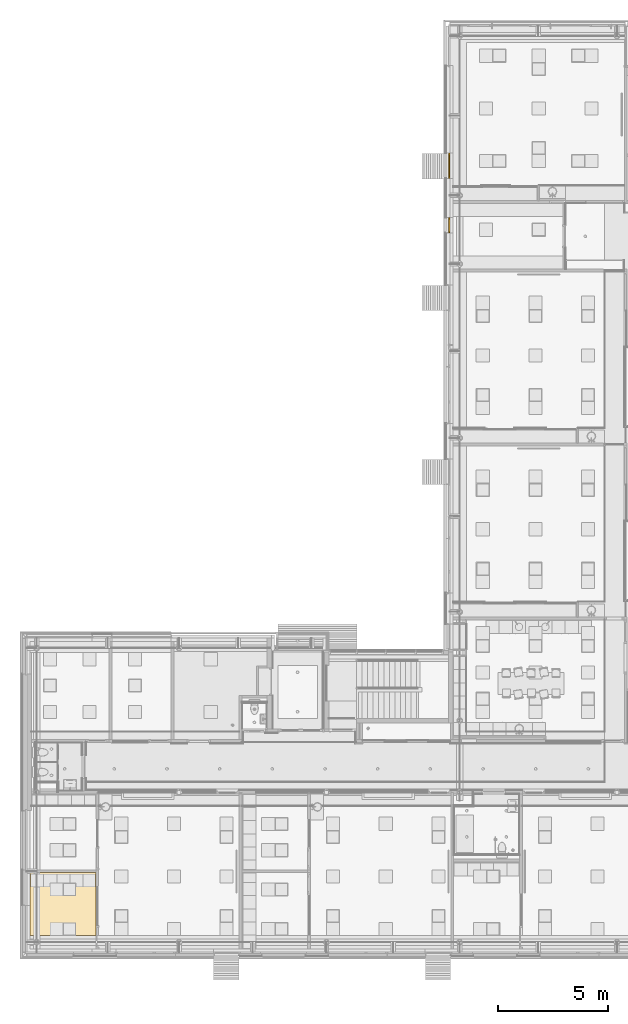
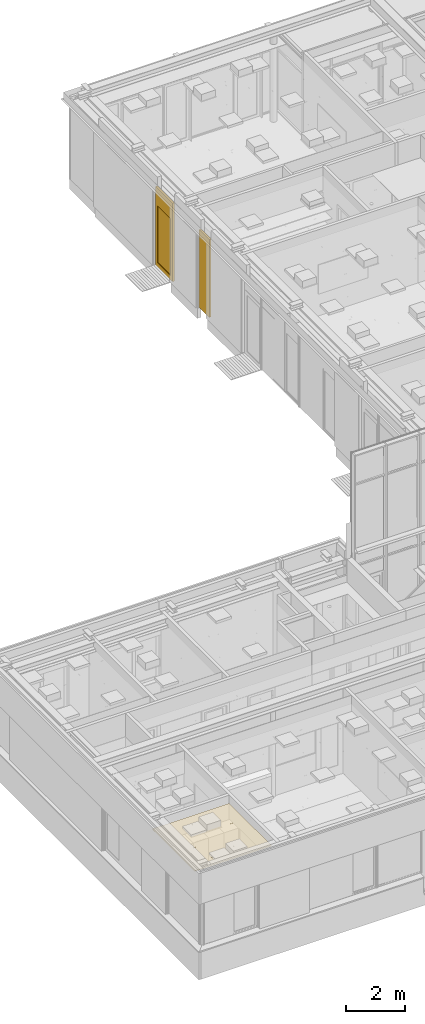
# One storey, part 156 of 347: 1 covering, 1 door, 1 window.
"""IFC2X3 building model written with IfcOpenShell, lengths in millimetres."""

from ifc_helpers import new_model, entity, si_unit, converted_unit, derived_unit, money_unit, direction, frame, origin_with_axes, place, context, subcontext, project, spatial, open_shell, faceted_brep, surface_model, type_object, element, save


model = new_model("IFC2X3")

# Units and contexts
model_context = context("Model", 3, precision=0.01, world=origin_with_axes(), true_north=direction((0.0, 1.0)))
plan_context = context("Plan", 3, precision=0.01, world=origin_with_axes(), true_north=direction((0.0, 1.0)))
body_context = subcontext(model_context, "Body", "Model", "MODEL_VIEW")
ifc_project = project(units=[si_unit("LENGTHUNIT", "METRE", prefix="MILLI"), si_unit("AREAUNIT", "SQUARE_METRE"), si_unit("VOLUMEUNIT", "CUBIC_METRE"), converted_unit("PLANEANGLEUNIT", "DEGREE", entity("IfcPlaneAngleMeasure", 0.0174532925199), si_unit("PLANEANGLEUNIT", "RADIAN"), dimensions=[0, 0, 0, 0, 0, 0, 0]), money_unit("EUR"), converted_unit("TIMEUNIT", "Year", entity("IfcTimeMeasure", 31556926.0), si_unit("TIMEUNIT", "SECOND"), dimensions=[0, 0, 1, 0, 0, 0, 0]), si_unit("MASSUNIT", "GRAM", prefix="KILO"), si_unit("THERMODYNAMICTEMPERATUREUNIT", "DEGREE_CELSIUS"), si_unit("LUMINOUSINTENSITYUNIT", "LUMEN"), si_unit("ENERGYUNIT", "JOULE", prefix="MEGA"), derived_unit("THERMALCONDUCTANCEUNIT", [(si_unit("POWERUNIT", "WATT"), 1), (si_unit("LENGTHUNIT", "METRE"), -1), (si_unit("THERMODYNAMICTEMPERATUREUNIT", "KELVIN"), -1)]), derived_unit("SPECIFICHEATCAPACITYUNIT", [(si_unit("ENERGYUNIT", "JOULE"), 1), (si_unit("MASSUNIT", "GRAM", prefix="KILO"), -1), (si_unit("THERMODYNAMICTEMPERATUREUNIT", "KELVIN"), -1)]), derived_unit("MASSDENSITYUNIT", [(si_unit("MASSUNIT", "GRAM", prefix="KILO"), 1), (si_unit("VOLUMEUNIT", "CUBIC_METRE"), -1)])], contexts=[model_context, plan_context])

# Site, building, storey
site_placement = place(None, origin_with_axes())
site = spatial("IfcSite", under=ifc_project, at=site_placement, Name="Site", CompositionType="ELEMENT")
building_placement = place(site_placement, origin_with_axes())
building = spatial("IfcBuilding", under=site, at=building_placement, Name="Naam gebouw", CompositionType="ELEMENT")
storey_placement = place(building_placement, origin_with_axes())
storey = spatial("IfcBuildingStorey", under=building, at=storey_placement, Name="begane grond", CompositionType="ELEMENT", Elevation=0.0)

# Window
window_style = type_object("IfcWindowStyle", Name="Rmeerkeuze 25", ConstructionType="NOTDEFINED", OperationType="DOUBLE_PANEL_HORIZONTAL", ParameterTakesPrecedence=False, Sizeable=False)
window_placement = place(storey_placement, frame((24275.0, 38312.5, -10.0), z_axis=(0.0, 0.0, 1.0), x_axis=(0.0, -1.0, 0.0)))
element("IfcWindow", 1, at=window_placement, inside=storey, type_object=window_style, Name="32_merk-AL", ObjectType="WINDOW", OverallHeight=3210.0, OverallWidth=700.0, context=body_context, shape_type="SurfaceModel", body=[
    faceted_brep([(646.0, -222.0, 2556.0), (646.0, -222.0, 2610.0), (646.0, -150.0, 2610.0), (646.0, -150.0, 2556.0), (646.0, -222.0, 54.0), (700.0, -222.0, 54.0), (700.0, -222.0, 3156.0), (646.0, -222.0, 3156.0), (646.0, -150.0, 3156.0), (700.0, -150.0, 3156.0), (700.0, -150.0, 54.0), (646.0, -150.0, 54.0)], [[[0, 1, 2, 3]], [[0, 4, 5, 6, 7, 1]], [[1, 7, 8, 2]], [[3, 2, 8, 9, 10, 11]], [[4, 0, 3, 11]], [[5, 4, 11, 10]], [[6, 5, 10, 9]], [[7, 6, 9, 8]]]),
    faceted_brep([(54.0, -222.0, 54.0), (0.0, -222.0, 54.0), (0.0, -150.0, 54.0), (54.0, -150.0, 54.0), (54.0, -222.0, 2556.0), (54.0, -222.0, 2610.0), (54.0, -222.0, 3156.0), (0.0, -222.0, 3156.0), (0.0, -150.0, 3156.0), (54.0, -150.0, 3156.0), (54.0, -150.0, 2610.0), (54.0, -150.0, 2556.0)], [[[0, 1, 2, 3]], [[0, 4, 5, 6, 7, 1]], [[1, 7, 8, 2]], [[3, 2, 8, 9, 10, 11]], [[4, 0, 3, 11]], [[5, 4, 11, 10]], [[6, 5, 10, 9]], [[7, 6, 9, 8]]]),
    faceted_brep([(646.0, -222.0, 2610.0), (646.0, -222.0, 2556.0), (646.0, -150.0, 2556.0), (646.0, -150.0, 2610.0), (54.0, -222.0, 2610.0), (54.0, -222.0, 2556.0), (54.0, -150.0, 2556.0), (54.0, -150.0, 2610.0)], [[[0, 1, 2, 3]], [[0, 4, 5, 1]], [[1, 5, 6, 2]], [[3, 2, 6, 7]], [[4, 0, 3, 7]], [[5, 4, 7, 6]]]),
    faceted_brep([(646.0, -222.0, 54.0), (700.0, -222.0, 54.0), (700.0, -150.0, 54.0), (646.0, -150.0, 54.0), (54.0, -222.0, 54.0), (0.0, -222.0, 54.0), (0.0, -222.0, 0.0), (700.0, -222.0, 0.0), (700.0, -150.0, 0.0), (0.0, -150.0, 0.0), (0.0, -150.0, 54.0), (54.0, -150.0, 54.0)], [[[0, 1, 2, 3]], [[0, 4, 5, 6, 7, 1]], [[1, 7, 8, 2]], [[3, 2, 8, 9, 10, 11]], [[4, 0, 3, 11]], [[5, 4, 11, 10]], [[6, 5, 10, 9]], [[7, 6, 9, 8]]]),
    faceted_brep([(54.0, -222.0, 3156.0), (0.0, -222.0, 3156.0), (0.0, -150.0, 3156.0), (54.0, -150.0, 3156.0), (646.0, -222.0, 3156.0), (700.0, -222.0, 3156.0), (700.0, -222.0, 3210.0), (0.0, -222.0, 3210.0), (0.0, -150.0, 3210.0), (700.0, -150.0, 3210.0), (700.0, -150.0, 3156.0), (646.0, -150.0, 3156.0)], [[[0, 1, 2, 3]], [[0, 4, 5, 6, 7, 1]], [[1, 7, 8, 2]], [[3, 2, 8, 9, 10, 11]], [[4, 0, 3, 11]], [[5, 4, 11, 10]], [[6, 5, 10, 9]], [[7, 6, 9, 8]]]),
    surface_model("IfcShellBasedSurfaceModel", [(646.0, -222.0, 2610.0), (646.0, -222.0, 3156.0), (54.0, -222.0, 3156.0), (54.0, -222.0, 2610.0)], [open_shell([[[0, 1, 2, 3]]])]),
    surface_model("IfcShellBasedSurfaceModel", [(646.0, -202.0, 2610.0), (54.0, -202.0, 2610.0), (54.0, -202.0, 3156.0), (646.0, -202.0, 3156.0)], [open_shell([[[0, 1, 2, 3]]])]),
    surface_model("IfcShellBasedSurfaceModel", [(646.0, -222.0, 54.0), (646.0, -222.0, 2556.0), (54.0, -222.0, 2556.0), (54.0, -222.0, 54.0)], [open_shell([[[0, 1, 2, 3]]])]),
    surface_model("IfcShellBasedSurfaceModel", [(646.0, -202.0, 54.0), (54.0, -202.0, 54.0), (54.0, -202.0, 2556.0), (646.0, -202.0, 2556.0)], [open_shell([[[0, 1, 2, 3]]])]),
])

# Door
door_style = type_object("IfcDoorStyle", Name="D1 bl 25", ConstructionType="NOTDEFINED", OperationType="SINGLE_SWING_LEFT", ParameterTakesPrecedence=False, Sizeable=False)
door_placement = place(storey_placement, frame((24275.0, 40097.0000187, -40.0), z_axis=(0.0, 0.0, 1.0), x_axis=(0.0, 1.0, 0.0)))
element("IfcDoor", 2, at=door_placement, inside=storey, type_object=door_style, Name="32_merk-AM", ObjectType="DOOR", OverallHeight=3240.0, OverallWidth=1150.0, context=body_context, shape_type="SurfaceModel", body=[
    faceted_brep([(1111.0, 160.0, 48.0), (1111.0, 222.0, 48.0), (39.0, 222.0, 48.0), (39.0, 160.0, 48.0), (54.0, 160.0, 48.0), (54.0, 150.0, 48.0), (1096.0, 150.0, 48.0), (1096.0, 160.0, 48.0), (1111.0, 160.0, 0.0), (1111.0, 222.0, 0.0), (39.0, 222.0, 0.0), (39.0, 160.0, 0.0), (54.0, 160.0, 0.0), (54.0, 150.0, 0.0), (1096.0, 150.0, 0.0), (1096.0, 160.0, 0.0)], [[[0, 1, 2, 3, 4, 5, 6, 7]], [[8, 9, 1, 0]], [[9, 10, 2, 1]], [[11, 3, 2, 10]], [[3, 11, 12, 4]], [[5, 4, 12, 13]], [[6, 5, 13, 14]], [[14, 15, 7, 6]], [[7, 15, 8, 0]], [[15, 14, 13, 12, 11, 10, 9, 8]]]),
    faceted_brep([(1096.0, 160.0, 2601.0), (1096.0, 160.0, 0.0), (1096.0, 150.0, 0.0), (1096.0, 150.0, 2586.0), (1096.0, 150.0, 2640.0), (1096.0, 222.0, 2640.0), (1096.0, 222.0, 2601.0), (1111.0, 160.0, 2601.0), (1111.0, 160.0, 0.0), (1111.0, 222.0, 0.0), (1150.0, 222.0, 0.0), (1150.0, 150.0, 0.0), (1150.0, 150.0, 3186.0), (1096.0, 150.0, 3186.0), (1096.0, 222.0, 3186.0), (1111.0, 222.0, 2601.0), (1150.0, 222.0, 3186.0)], [[[0, 1, 2, 3, 4, 5, 6]], [[0, 7, 8, 1]], [[8, 9, 10, 11, 2, 1]], [[4, 3, 2, 11, 12, 13]], [[14, 5, 4, 13]], [[15, 6, 5, 14, 16, 10, 9]], [[6, 15, 7, 0]], [[9, 8, 7, 15]], [[10, 16, 12, 11]], [[16, 14, 13, 12]]]),
    faceted_brep([(39.0, 222.0, 2601.0), (39.0, 222.0, 0.0), (0.0, 222.0, 0.0), (0.0, 222.0, 3186.0), (54.0, 222.0, 3186.0), (54.0, 222.0, 2640.0), (54.0, 222.0, 2601.0), (39.0, 160.0, 2601.0), (39.0, 160.0, 0.0), (54.0, 160.0, 0.0), (54.0, 150.0, 0.0), (0.0, 150.0, 0.0), (0.0, 150.0, 3186.0), (54.0, 150.0, 3186.0), (54.0, 150.0, 2640.0), (54.0, 160.0, 2601.0), (54.0, 150.0, 2586.0)], [[[0, 1, 2, 3, 4, 5, 6]], [[0, 7, 8, 1]], [[8, 9, 10, 11, 2, 1]], [[3, 2, 11, 12]], [[4, 3, 12, 13]], [[5, 4, 13, 14]], [[15, 6, 5, 14, 16, 10, 9]], [[6, 15, 7, 0]], [[8, 7, 15, 9]], [[14, 13, 12, 11, 10, 16]]]),
    faceted_brep([(1150.0, 222.0, 3240.0), (1150.0, 150.0, 3240.0), (1150.0, 150.0, 3186.0), (1150.0, 222.0, 3186.0), (0.0, 222.0, 3240.0), (0.0, 150.0, 3240.0), (0.0, 150.0, 3186.0), (54.0, 150.0, 3186.0), (1096.0, 150.0, 3186.0), (1096.0, 222.0, 3186.0), (54.0, 222.0, 3186.0), (0.0, 222.0, 3186.0)], [[[0, 1, 2, 3]], [[4, 5, 1, 0]], [[1, 5, 6, 7, 8, 2]], [[3, 2, 8, 9]], [[0, 3, 9, 10, 11, 4]], [[11, 6, 5, 4]], [[10, 7, 6, 11]], [[9, 8, 7, 10]]]),
    faceted_brep([(54.0, 160.0, 2601.0), (54.0, 160.0, 2586.0), (54.0, 150.0, 2586.0), (54.0, 150.0, 2640.0), (54.0, 222.0, 2640.0), (54.0, 222.0, 2601.0), (1096.0, 160.0, 2601.0), (1096.0, 160.0, 2586.0), (1096.0, 150.0, 2586.0), (1096.0, 150.0, 2640.0), (1096.0, 222.0, 2640.0), (1096.0, 222.0, 2601.0)], [[[0, 1, 2, 3, 4, 5]], [[0, 6, 7, 1]], [[7, 8, 2, 1]], [[8, 9, 3, 2]], [[10, 4, 3, 9]], [[5, 4, 10, 11]], [[5, 11, 6, 0]], [[6, 11, 10, 9, 8, 7]]]),
    faceted_brep([(39.0, 222.0, 168.0), (129.0, 222.0, 168.0), (129.0, 160.0, 168.0), (39.0, 160.0, 168.0), (39.0, 222.0, 2511.0), (129.0, 222.0, 2511.0), (129.0, 160.0, 2511.0), (39.0, 160.0, 2511.0)], [[[0, 1, 2, 3]], [[0, 4, 5, 1]], [[1, 5, 6, 2]], [[3, 2, 6, 7]], [[4, 0, 3, 7]], [[5, 4, 7, 6]]]),
    faceted_brep([(1111.0, 222.0, 168.0), (1111.0, 222.0, 2511.0), (1111.0, 160.0, 2511.0), (1111.0, 160.0, 168.0), (1021.0, 222.0, 168.0), (1021.0, 222.0, 2511.0), (1021.0, 160.0, 2511.0), (1021.0, 160.0, 168.0)], [[[0, 1, 2, 3]], [[0, 4, 5, 1]], [[1, 5, 6, 2]], [[3, 2, 6, 7]], [[4, 0, 3, 7]], [[5, 4, 7, 6]]]),
    faceted_brep([(39.0, 222.0, 48.0), (1111.0, 222.0, 48.0), (1111.0, 160.0, 48.0), (39.0, 160.0, 48.0), (39.0, 222.0, 168.0), (129.0, 222.0, 168.0), (1021.0, 222.0, 168.0), (1111.0, 222.0, 168.0), (1111.0, 160.0, 168.0), (1021.0, 160.0, 168.0), (129.0, 160.0, 168.0), (39.0, 160.0, 168.0)], [[[0, 1, 2, 3]], [[0, 4, 5, 6, 7, 1]], [[1, 7, 8, 2]], [[3, 2, 8, 9, 10, 11]], [[4, 0, 3, 11]], [[5, 4, 11, 10]], [[6, 5, 10, 9]], [[7, 6, 9, 8]]]),
    faceted_brep([(39.0, 222.0, 2601.0), (39.0, 222.0, 2511.0), (39.0, 160.0, 2511.0), (39.0, 160.0, 2601.0), (1111.0, 222.0, 2601.0), (1111.0, 222.0, 2511.0), (1021.0, 222.0, 2511.0), (129.0, 222.0, 2511.0), (129.0, 160.0, 2511.0), (1021.0, 160.0, 2511.0), (1111.0, 160.0, 2511.0), (1111.0, 160.0, 2601.0)], [[[0, 1, 2, 3]], [[0, 4, 5, 6, 7, 1]], [[1, 7, 8, 2]], [[3, 2, 8, 9, 10, 11]], [[4, 0, 3, 11]], [[5, 4, 11, 10]], [[6, 5, 10, 9]], [[7, 6, 9, 8]]]),
    surface_model("IfcShellBasedSurfaceModel", [(129.0, 197.0, 168.0), (129.0, 197.0, 2511.0), (1021.0, 197.0, 2511.0), (1021.0, 197.0, 168.0)], [open_shell([[[0, 1, 2, 3]]])]),
    surface_model("IfcShellBasedSurfaceModel", [(129.0, 185.0, 168.0), (1021.0, 185.0, 168.0), (1021.0, 185.0, 2511.0), (129.0, 185.0, 2511.0)], [open_shell([[[0, 1, 2, 3]]])]),
    surface_model("IfcShellBasedSurfaceModel", [(1096.0, 218.0, 2640.0), (54.0, 218.0, 2640.0), (54.0, 218.0, 3186.0), (1096.0, 218.0, 3186.0)], [open_shell([[[0, 1, 2, 3]]])]),
    surface_model("IfcShellBasedSurfaceModel", [(1096.0, 206.0, 2640.0), (1096.0, 206.0, 3186.0), (54.0, 206.0, 3186.0), (54.0, 206.0, 2640.0)], [open_shell([[[0, 1, 2, 3]]])]),
])

# Covering
covering_type = type_object("IfcCoveringType", Name="Ceiling Editor INT_v2.01", PredefinedType="CEILING")
covering_placement = place(storey_placement, frame((5000.0, 5599.99997201, 3200.0), z_axis=(0.0, 0.0, 1.0), x_axis=(1.0, 0.0, 0.0)))
element("IfcCovering", 3, at=covering_placement, inside=storey, type_object=covering_type, Name="45 Plafondafwerkingen_77 garderobe", PredefinedType="CEILING", context=body_context, shape_type="Brep", body=[
    faceted_brep([(0.0, 599.9, 0.0), (0.0, 599.9, 20.0), (899.9, 599.9, 20.0), (899.9, 599.9, 0.0), (0.0, 0.0999999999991, 0.0), (0.0, 0.0999999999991, 20.0), (899.9, 0.0999999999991, 20.0), (899.9, 0.0999999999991, 0.0)], [[[0, 1, 2, 3]], [[1, 0, 4, 5]], [[1, 5, 6, 2]], [[6, 7, 3, 2]], [[4, 0, 3, 7]], [[5, 4, 7, 6]]]),
    faceted_brep([(0.0, 1199.9, 0.0), (0.0, 1199.9, 20.0), (899.9, 1199.9, 20.0), (899.9, 1199.9, 0.0), (0.0, 716.250006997, 0.0), (0.0, 716.250006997, 20.0), (0.0, 600.1, 20.0), (899.9, 600.1, 20.0), (899.9, 600.1, 0.0), (0.0, 600.1, 0.0)], [[[0, 1, 2, 3]], [[1, 0, 4, 5]], [[5, 6, 7, 2, 1]], [[7, 8, 3, 2]], [[4, 0, 3, 8, 9]], [[6, 5, 4, 9]], [[6, 9, 8, 7]]]),
    faceted_brep([(0.0, 1799.9, 0.0), (0.0, 1799.9, 20.0), (899.9, 1799.9, 20.0), (899.9, 1799.9, 0.0), (0.0, 1432.50001399, 0.0), (0.0, 1432.50001399, 20.0), (0.0, 1200.1, 20.0), (899.9, 1200.1, 20.0), (899.9, 1200.1, 0.0), (0.0, 1200.1, 0.0)], [[[0, 1, 2, 3]], [[1, 0, 4, 5]], [[5, 6, 7, 2, 1]], [[7, 8, 3, 2]], [[4, 0, 3, 8, 9]], [[6, 5, 4, 9]], [[6, 9, 8, 7]]]),
    faceted_brep([(0.0, 2399.9, 0.0), (0.0, 2399.9, 20.0), (899.9, 2399.9, 20.0), (899.9, 2399.9, 0.0), (0.0, 2148.75002099, 0.0), (0.0, 2148.75002099, 20.0), (0.0, 1800.1, 20.0), (899.9, 1800.1, 20.0), (899.9, 1800.1, 0.0), (0.0, 1800.1, 0.0)], [[[0, 1, 2, 3]], [[1, 0, 4, 5]], [[5, 6, 7, 2, 1]], [[7, 8, 3, 2]], [[4, 0, 3, 8, 9]], [[6, 5, 4, 9]], [[6, 9, 8, 7]]]),
    faceted_brep([(899.9, 2865.00002799, 0.0), (899.9, 2865.00002799, 20.0), (899.9, 2400.1, 20.0), (899.9, 2400.1, 0.0), (750.0, 2865.00002799, 0.0), (750.0, 2865.00002799, 20.0), (0.0, 2865.00002799, 20.0), (0.0, 2400.1, 20.0), (0.0, 2400.1, 0.0), (0.0, 2865.00002799, 0.0)], [[[0, 1, 2, 3]], [[1, 0, 4, 5]], [[6, 7, 2, 1, 5]], [[7, 8, 3, 2]], [[4, 0, 3, 8, 9]], [[6, 5, 4, 9]], [[7, 6, 9, 8]]]),
    faceted_brep([(2099.9, 0.0999999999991, 20.0), (2099.9, 0.0999999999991, 0.0), (2099.9, 599.9, 0.0), (2099.9, 599.9, 20.0), (900.1, 0.0999999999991, 20.0), (900.1, 0.0999999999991, 0.0), (900.1, 599.9, 0.0), (900.1, 599.9, 20.0)], [[[0, 1, 2, 3]], [[4, 5, 1, 0]], [[2, 1, 5, 6]], [[3, 2, 6, 7]], [[4, 0, 3, 7]], [[7, 6, 5, 4]]]),
    faceted_brep([(2099.9, 600.1, 20.0), (2099.9, 600.1, 0.0), (2099.9, 1199.9, 0.0), (2099.9, 1199.9, 20.0), (900.1, 600.1, 20.0), (900.1, 600.1, 0.0), (900.1, 1199.9, 0.0), (900.1, 1199.9, 20.0)], [[[0, 1, 2, 3]], [[4, 5, 1, 0]], [[2, 1, 5, 6]], [[3, 2, 6, 7]], [[4, 0, 3, 7]], [[7, 6, 5, 4]]]),
    faceted_brep([(2099.9, 1200.1, 20.0), (2099.9, 1200.1, 0.0), (2099.9, 1799.9, 0.0), (2099.9, 1799.9, 20.0), (900.1, 1200.1, 20.0), (900.1, 1200.1, 0.0), (900.1, 1799.9, 0.0), (900.1, 1799.9, 20.0)], [[[0, 1, 2, 3]], [[4, 5, 1, 0]], [[2, 1, 5, 6]], [[3, 2, 6, 7]], [[4, 0, 3, 7]], [[7, 6, 5, 4]]]),
    faceted_brep([(2099.9, 1800.1, 20.0), (2099.9, 1800.1, 0.0), (2099.9, 2399.9, 0.0), (2099.9, 2399.9, 20.0), (900.1, 1800.1, 20.0), (900.1, 1800.1, 0.0), (900.1, 2399.9, 0.0), (900.1, 2399.9, 20.0)], [[[0, 1, 2, 3]], [[4, 5, 1, 0]], [[2, 1, 5, 6]], [[3, 2, 6, 7]], [[4, 0, 3, 7]], [[7, 6, 5, 4]]]),
    faceted_brep([(2099.9, 2865.00002799, 0.0), (2099.9, 2865.00002799, 20.0), (2099.9, 2400.1, 20.0), (2099.9, 2400.1, 0.0), (1500.0, 2865.00002799, 0.0), (1500.0, 2865.00002799, 20.0), (900.1, 2865.00002799, 20.0), (900.1, 2400.1, 20.0), (900.1, 2400.1, 0.0), (900.1, 2865.00002799, 0.0)], [[[0, 1, 2, 3]], [[1, 0, 4, 5]], [[5, 6, 7, 2, 1]], [[7, 8, 3, 2]], [[4, 0, 3, 8, 9]], [[6, 5, 4, 9]], [[6, 9, 8, 7]]]),
    faceted_brep([(3000.0, 0.0999999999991, 20.0), (3000.0, 599.9, 20.0), (2100.1, 599.9, 20.0), (2100.1, 0.0999999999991, 20.0), (3000.0, 0.0999999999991, 0.0), (3000.0, 599.9, 0.0), (2100.1, 599.9, 0.0), (2100.1, 0.0999999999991, 0.0)], [[[0, 1, 2, 3]], [[1, 0, 4, 5]], [[1, 5, 6, 2]], [[2, 6, 7, 3]], [[4, 0, 3, 7]], [[5, 4, 7, 6]]]),
    faceted_brep([(3000.0, 716.250006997, 20.0), (3000.0, 1199.9, 20.0), (2100.1, 1199.9, 20.0), (2100.1, 600.1, 20.0), (3000.0, 600.1, 20.0), (3000.0, 716.250006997, 0.0), (3000.0, 1199.9, 0.0), (2100.1, 1199.9, 0.0), (2100.1, 600.1, 0.0), (3000.0, 600.1, 0.0)], [[[0, 1, 2, 3, 4]], [[1, 0, 5, 6]], [[1, 6, 7, 2]], [[2, 7, 8, 3]], [[9, 4, 3, 8]], [[0, 4, 9, 5]], [[5, 9, 8, 7, 6]]]),
    faceted_brep([(3000.0, 1432.50001399, 20.0), (3000.0, 1799.9, 20.0), (2100.1, 1799.9, 20.0), (2100.1, 1200.1, 20.0), (3000.0, 1200.1, 20.0), (3000.0, 1432.50001399, 0.0), (3000.0, 1799.9, 0.0), (2100.1, 1799.9, 0.0), (2100.1, 1200.1, 0.0), (3000.0, 1200.1, 0.0)], [[[0, 1, 2, 3, 4]], [[1, 0, 5, 6]], [[1, 6, 7, 2]], [[2, 7, 8, 3]], [[9, 4, 3, 8]], [[0, 4, 9, 5]], [[5, 9, 8, 7, 6]]]),
    faceted_brep([(3000.0, 2148.75002099, 20.0), (3000.0, 2399.9, 20.0), (2100.1, 2399.9, 20.0), (2100.1, 1800.1, 20.0), (3000.0, 1800.1, 20.0), (3000.0, 2148.75002099, 0.0), (3000.0, 2399.9, 0.0), (2100.1, 2399.9, 0.0), (2100.1, 1800.1, 0.0), (3000.0, 1800.1, 0.0)], [[[0, 1, 2, 3, 4]], [[1, 0, 5, 6]], [[1, 6, 7, 2]], [[2, 7, 8, 3]], [[9, 4, 3, 8]], [[0, 4, 9, 5]], [[5, 9, 8, 7, 6]]]),
    faceted_brep([(3000.0, 2400.1, 20.0), (3000.0, 2865.00002799, 20.0), (2250.0, 2865.00002799, 20.0), (2100.1, 2865.00002799, 20.0), (2100.1, 2400.1, 20.0), (3000.0, 2400.1, 0.0), (3000.0, 2865.00002799, 0.0), (2250.0, 2865.00002799, 0.0), (2100.1, 2865.00002799, 0.0), (2100.1, 2400.1, 0.0)], [[[0, 1, 2, 3, 4]], [[1, 0, 5, 6]], [[2, 1, 6, 7]], [[3, 2, 7, 8]], [[3, 8, 9, 4]], [[5, 0, 4, 9]], [[6, 5, 9, 8, 7]]]),
    faceted_brep([(887.5, 25.0, -5.0), (887.5, 25.0, 0.0), (887.5, 587.5, 0.0), (887.5, 587.5, -5.0), (25.0, 25.0, -5.0), (25.0, 25.0, 0.0), (3000.0, 1187.5, 0.0), (3000.0, 1212.5, 0.0), (3000.0, 1787.5, 0.0), (3000.0, 1812.5, 0.0), (3000.0, 2387.5, 0.0), (3000.0, 2412.5, 0.0), (3000.0, 2865.00002799, 0.0), (2112.5, 2865.00002799, 0.0), (2087.5, 2865.00002799, 0.0), (912.5, 2865.00002799, 0.0), (887.5, 2865.00002799, 0.0), (0.0, 2865.00002799, 0.0), (0.0, 2412.5, 0.0), (0.0, 2387.5, 0.0), (0.0, 1812.5, 0.0), (0.0, 1787.5, 0.0), (0.0, 1212.5, 0.0), (0.0, 1187.5, 0.0), (0.0, 612.5, 0.0), (0.0, 587.5, 0.0), (0.0, 12.5, 0.0), (0.0, 0.0, 0.0), (750.0, 0.0, 0.0), (1500.0, 0.0, 0.0), (2250.0, 0.0, 0.0), (3000.0, 0.0, 0.0), (3000.0, 12.5, 0.0), (3000.0, 587.5, 0.0), (3000.0, 612.5, 0.0), (912.5, 25.0, 0.0), (912.5, 587.5, 0.0), (2087.5, 587.5, 0.0), (2087.5, 25.0, 0.0), (912.5, 1187.5, 0.0), (2087.5, 1187.5, 0.0), (2087.5, 612.5, 0.0), (912.5, 612.5, 0.0), (912.5, 1787.5, 0.0), (2087.5, 1787.5, 0.0), (2087.5, 1212.5, 0.0), (912.5, 1212.5, 0.0), (912.5, 2387.5, 0.0), (2087.5, 2387.5, 0.0), (2087.5, 1812.5, 0.0), (912.5, 1812.5, 0.0), (25.0, 587.5, 0.0), (25.0, 1187.5, 0.0), (887.5, 1187.5, 0.0), (887.5, 612.5, 0.0), (25.0, 612.5, 0.0), (25.0, 1787.5, 0.0), (887.5, 1787.5, 0.0), (887.5, 1212.5, 0.0), (25.0, 1212.5, 0.0), (25.0, 2387.5, 0.0), (887.5, 2387.5, 0.0), (887.5, 1812.5, 0.0), (25.0, 1812.5, 0.0), (887.5, 2840.00002799, 0.0), (887.5, 2412.5, 0.0), (25.0, 2412.5, 0.0), (25.0, 2840.00002799, 0.0), (2087.5, 2840.00002799, 0.0), (2087.5, 2412.5, 0.0), (912.5, 2412.5, 0.0), (912.5, 2840.00002799, 0.0), (2975.0, 2840.00002799, 0.0), (2975.0, 2412.5, 0.0), (2112.5, 2412.5, 0.0), (2112.5, 2840.00002799, 0.0), (2975.0, 1812.5, 0.0), (2112.5, 1812.5, 0.0), (2112.5, 2387.5, 0.0), (2975.0, 2387.5, 0.0), (2975.0, 1212.5, 0.0), (2112.5, 1212.5, 0.0), (2112.5, 1787.5, 0.0), (2975.0, 1787.5, 0.0), (2112.5, 25.0, 0.0), (2112.5, 587.5, 0.0), (2975.0, 587.5, 0.0), (2975.0, 25.0, 0.0), (2975.0, 612.5, 0.0), (2112.5, 612.5, 0.0), (2112.5, 1187.5, 0.0), (2975.0, 1187.5, 0.0), (25.0, 587.5, -5.0), (3000.0, 612.5, -5.0), (3000.0, 587.5, -5.0), (3000.0, 12.5, -5.0), (3000.0, 0.0, -5.0), (2250.0, 0.0, -5.0), (1500.0, 0.0, -5.0), (750.0, 0.0, -5.0), (0.0, 0.0, -5.0), (0.0, 12.5, -5.0), (0.0, 587.5, -5.0), (0.0, 612.5, -5.0), (0.0, 1187.5, -5.0), (0.0, 1212.5, -5.0), (0.0, 1787.5, -5.0), (0.0, 1812.5, -5.0), (0.0, 2387.5, -5.0), (0.0, 2412.5, -5.0), (0.0, 2865.00002799, -5.0), (887.5, 2865.00002799, -5.0), (912.5, 2865.00002799, -5.0), (2087.5, 2865.00002799, -5.0), (2112.5, 2865.00002799, -5.0), (3000.0, 2865.00002799, -5.0), (3000.0, 2412.5, -5.0), (3000.0, 2387.5, -5.0), (3000.0, 1812.5, -5.0), (3000.0, 1787.5, -5.0), (3000.0, 1212.5, -5.0), (3000.0, 1187.5, -5.0), (2087.5, 25.0, -5.0), (2087.5, 587.5, -5.0), (912.5, 587.5, -5.0), (912.5, 25.0, -5.0), (2087.5, 612.5, -5.0), (2087.5, 1187.5, -5.0), (912.5, 1187.5, -5.0), (912.5, 612.5, -5.0), (2087.5, 1212.5, -5.0), (2087.5, 1787.5, -5.0), (912.5, 1787.5, -5.0), (912.5, 1212.5, -5.0), (2087.5, 1812.5, -5.0), (2087.5, 2387.5, -5.0), (912.5, 2387.5, -5.0), (912.5, 1812.5, -5.0), (25.0, 1187.5, -5.0), (25.0, 612.5, -5.0), (887.5, 612.5, -5.0), (887.5, 1187.5, -5.0), (25.0, 1787.5, -5.0), (25.0, 1212.5, -5.0), (887.5, 1212.5, -5.0), (887.5, 1787.5, -5.0), (25.0, 2387.5, -5.0), (25.0, 1812.5, -5.0), (887.5, 1812.5, -5.0), (887.5, 2387.5, -5.0), (887.5, 2840.00002799, -5.0), (25.0, 2840.00002799, -5.0), (25.0, 2412.5, -5.0), (887.5, 2412.5, -5.0), (2087.5, 2840.00002799, -5.0), (912.5, 2840.00002799, -5.0), (912.5, 2412.5, -5.0), (2087.5, 2412.5, -5.0), (2975.0, 2840.00002799, -5.0), (2112.5, 2840.00002799, -5.0), (2112.5, 2412.5, -5.0), (2975.0, 2412.5, -5.0), (2975.0, 2387.5, -5.0), (2112.5, 2387.5, -5.0), (2112.5, 1812.5, -5.0), (2975.0, 1812.5, -5.0), (2975.0, 1787.5, -5.0), (2112.5, 1787.5, -5.0), (2112.5, 1212.5, -5.0), (2975.0, 1212.5, -5.0), (2975.0, 25.0, -5.0), (2975.0, 587.5, -5.0), (2112.5, 587.5, -5.0), (2112.5, 25.0, -5.0), (2975.0, 1187.5, -5.0), (2112.5, 1187.5, -5.0), (2112.5, 612.5, -5.0), (2975.0, 612.5, -5.0)], [[[0, 1, 2, 3]], [[1, 0, 4, 5]], [[6, 7, 8, 9, 10, 11, 12, 13, 14, 15, 16, 17, 18, 19, 20, 21, 22, 23, 24, 25, 26, 27, 28, 29, 30, 31, 32, 33, 34], [35, 36, 37, 38], [39, 40, 41, 42], [43, 44, 45, 46], [47, 48, 49, 50], [1, 5, 51, 2], [52, 53, 54, 55], [56, 57, 58, 59], [60, 61, 62, 63], [64, 65, 66, 67], [68, 69, 70, 71], [72, 73, 74, 75], [76, 77, 78, 79], [80, 81, 82, 83], [84, 85, 86, 87], [88, 89, 90, 91]], [[51, 92, 3, 2]], [[93, 94, 95, 96, 97, 98, 99, 100, 101, 102, 103, 104, 105, 106, 107, 108, 109, 110, 111, 112, 113, 114, 115, 116, 117, 118, 119, 120, 121], [122, 123, 124, 125], [126, 127, 128, 129], [130, 131, 132, 133], [134, 135, 136, 137], [0, 3, 92, 4], [138, 139, 140, 141], [142, 143, 144, 145], [146, 147, 148, 149], [150, 151, 152, 153], [154, 155, 156, 157], [158, 159, 160, 161], [162, 163, 164, 165], [166, 167, 168, 169], [170, 171, 172, 173], [174, 175, 176, 177]], [[92, 51, 5, 4]], [[93, 121, 120, 119, 118, 117, 116, 115, 12, 11, 10, 9, 8, 7, 6, 34, 33, 32, 31, 96, 95, 94]], [[12, 115, 114, 113, 112, 111, 110, 17, 16, 15, 14, 13]], [[17, 110, 109, 108, 107, 106, 105, 104, 103, 102, 101, 100, 27, 26, 25, 24, 23, 22, 21, 20, 19, 18]], [[100, 99, 28, 27]], [[98, 29, 28, 99]], [[97, 30, 29, 98]], [[97, 96, 31, 30]], [[35, 125, 124, 36]], [[124, 123, 37, 36]], [[122, 38, 37, 123]], [[35, 38, 122, 125]], [[128, 127, 40, 39]], [[41, 40, 127, 126]], [[42, 41, 126, 129]], [[129, 128, 39, 42]], [[132, 131, 44, 43]], [[45, 44, 131, 130]], [[46, 45, 130, 133]], [[133, 132, 43, 46]], [[136, 135, 48, 47]], [[49, 48, 135, 134]], [[50, 49, 134, 137]], [[137, 136, 47, 50]], [[52, 138, 141, 53]], [[54, 53, 141, 140]], [[139, 55, 54, 140]], [[138, 52, 55, 139]], [[56, 142, 145, 57]], [[58, 57, 145, 144]], [[143, 59, 58, 144]], [[142, 56, 59, 143]], [[60, 146, 149, 61]], [[62, 61, 149, 148]], [[147, 63, 62, 148]], [[146, 60, 63, 147]], [[64, 150, 153, 65]], [[152, 66, 65, 153]], [[151, 67, 66, 152]], [[150, 64, 67, 151]], [[68, 154, 157, 69]], [[70, 69, 157, 156]], [[155, 71, 70, 156]], [[154, 68, 71, 155]], [[72, 158, 161, 73]], [[73, 161, 160, 74]], [[159, 75, 74, 160]], [[158, 72, 75, 159]], [[76, 165, 164, 77]], [[164, 163, 78, 77]], [[162, 79, 78, 163]], [[76, 79, 162, 165]], [[80, 169, 168, 81]], [[168, 167, 82, 81]], [[166, 83, 82, 167]], [[80, 83, 166, 169]], [[84, 173, 172, 85]], [[171, 86, 85, 172]], [[170, 87, 86, 171]], [[84, 87, 170, 173]], [[88, 177, 176, 89]], [[176, 175, 90, 89]], [[174, 91, 90, 175]], [[88, 91, 174, 177]]]),
])

save(model, "model.ifc")
